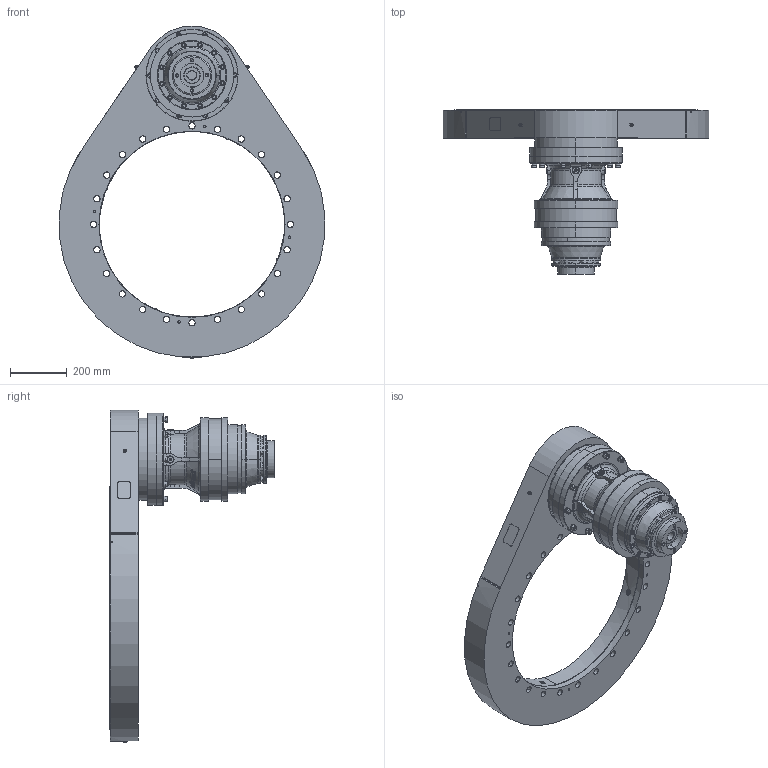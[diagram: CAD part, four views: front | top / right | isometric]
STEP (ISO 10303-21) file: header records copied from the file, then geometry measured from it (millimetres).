
FILE_DESCRIPTION((''),'2;1');
FILE_NAME('RGS30755_CUS','2025-03-04T06:31:39',('cobmac0'),('LIEBHERR'),'CREO PARAMETRIC BY PTC INC, 2024133','CREO PARAMETRIC BY PTC INC, 2024133','');
FILE_SCHEMA(('AP242_MANAGED_MODEL_BASED_3D_ENGINEERING_MIM_LF { 1 0 10303 442 1 1 4 }'));
Length unit declared in the file: millimetre
Products named in the file (1): RGS30755_CUS
Bounding box: 937.59 x 581 x 1172 mm (x, y, z)
Volume: 63991914.5 mm3; surface area: 2209668.6 mm2
Topology: 1 solids, 3 shells, 1520 faces, 3763 edges, 2379 vertices
Faces by surface type: cylinder 579, plane 536, cone 303, torus 102
Entity records: 69307 total; most frequent: CARTESIAN_POINT 11451, DIRECTION 7734, ORIENTED_EDGE 7342, PRESENTATION_STYLE_ASSIGNMENT 5192, STYLED_ITEM 3672, CURVE_STYLE 3671, EDGE_CURVE 3671, AXIS2_PLACEMENT_3D 3086
